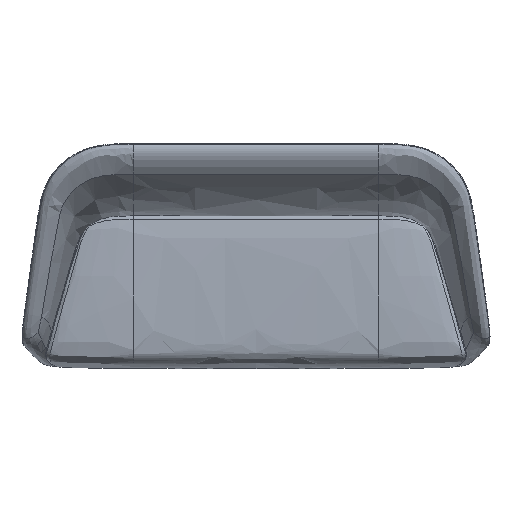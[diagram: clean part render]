
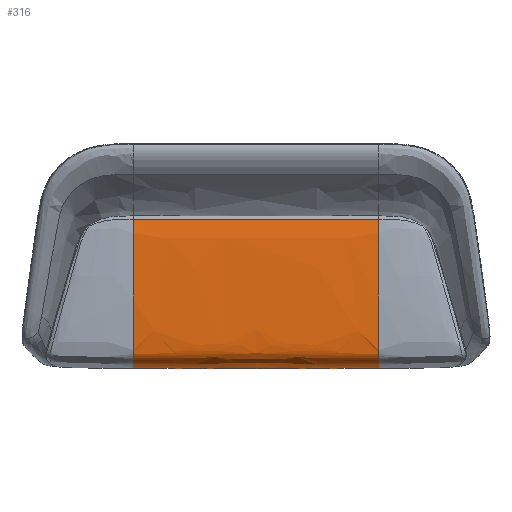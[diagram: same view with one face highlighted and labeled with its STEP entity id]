
A CAD part, top view. The second image highlights one B-rep face of the part: STEP entity #316.
In plain terms, the highlighted free-form (B-spline) face has degree [3, 1] with [18, 2] control points.
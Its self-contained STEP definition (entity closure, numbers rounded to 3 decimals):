
#15=B_SPLINE_SURFACE_WITH_KNOTS('',3,1,((#3946,#3947),(#3948,#3949),(#3950,
#3951),(#3952,#3953),(#3954,#3955),(#3956,#3957),(#3958,#3959),(#3960,#3961),
(#3962,#3963),(#3964,#3965),(#3966,#3967),(#3968,#3969),(#3970,#3971),(#3972,
#3973),(#3974,#3975),(#3976,#3977),(#3978,#3979),(#3980,#3981)),
 .UNSPECIFIED.,.F.,.F.,.F.,(4,2,2,1,1,1,1,1,1,1,1,1,1,4),(2,2),(0.,0.25,
0.5,1.,2.,3.,4.,5.,6.,7.,8.,9.,10.,11.),(0.,865.),
 .UNSPECIFIED.);
#316=ADVANCED_FACE('',(#429),#15,.T.);
#429=FACE_OUTER_BOUND('',#542,.T.);
#542=EDGE_LOOP('',(#841,#842,#843,#844));
#841=ORIENTED_EDGE('',*,*,#1227,.T.);
#842=ORIENTED_EDGE('',*,*,#1222,.T.);
#843=ORIENTED_EDGE('',*,*,#1228,.F.);
#844=ORIENTED_EDGE('',*,*,#1223,.T.);
#1222=EDGE_CURVE('',#1459,#1447,#1707,.T.);
#1223=EDGE_CURVE('',#1448,#1458,#1708,.T.);
#1227=EDGE_CURVE('',#1458,#1459,#1712,.T.);
#1228=EDGE_CURVE('',#1448,#1447,#1713,.T.);
#1447=VERTEX_POINT('',#4968);
#1448=VERTEX_POINT('',#4969);
#1458=VERTEX_POINT('',#4979);
#1459=VERTEX_POINT('',#4980);
#1707=B_SPLINE_CURVE_WITH_KNOTS('',1,(#5261,#5262),.UNSPECIFIED.,.F.,.F.,
(2,2),(0.,865.),.UNSPECIFIED.);
#1708=B_SPLINE_CURVE_WITH_KNOTS('',1,(#5263,#5264),.UNSPECIFIED.,.F.,.F.,
(2,2),(-865.,0.),.UNSPECIFIED.);
#1712=B_SPLINE_CURVE_WITH_KNOTS('',3,(#5285,#5286,#5287,#5288,#5289,#5290,
#5291,#5292,#5293,#5294,#5295,#5296,#5297,#5298,#5299,#5300,#5301,#5302,
#5303,#5304,#5305),.UNSPECIFIED.,.F.,.F.,(4,2,2,1,1,1,1,1,1,1,1,1,1,3,4),
(0.,0.25,0.5,1.,2.,3.,4.,5.,6.,7.,8.,9.,10.,10.204,11.),
 .UNSPECIFIED.);
#1713=B_SPLINE_CURVE_WITH_KNOTS('',3,(#5306,#5307,#5308,#5309,#5310,#5311,
#5312,#5313,#5314,#5315,#5316,#5317,#5318,#5319,#5320,#5321,#5322,#5323,
#5324,#5325,#5326),.UNSPECIFIED.,.F.,.F.,(4,2,2,1,1,1,1,1,1,1,1,1,1,3,4),
(0.,0.25,0.5,1.,2.,3.,4.,5.,6.,7.,8.,9.,10.,10.204,11.),
 .UNSPECIFIED.);
#3946=CARTESIAN_POINT('',(-432.5,209.829,397.851));
#3947=CARTESIAN_POINT('',(432.5,209.829,397.851));
#3948=CARTESIAN_POINT('',(-432.5,206.401,398.865));
#3949=CARTESIAN_POINT('',(432.5,206.401,398.865));
#3950=CARTESIAN_POINT('',(-432.5,202.077,399.82));
#3951=CARTESIAN_POINT('',(432.5,202.077,399.82));
#3952=CARTESIAN_POINT('',(-432.5,191.833,401.609));
#3953=CARTESIAN_POINT('',(432.5,191.833,401.609));
#3954=CARTESIAN_POINT('',(-432.5,185.915,402.442));
#3955=CARTESIAN_POINT('',(432.5,185.915,402.442));
#3956=CARTESIAN_POINT('',(-432.5,166.07,404.747));
#3957=CARTESIAN_POINT('',(432.5,166.07,404.747));
#3958=CARTESIAN_POINT('',(-432.5,118.019,408.585));
#3959=CARTESIAN_POINT('',(432.5,118.019,408.585));
#3960=CARTESIAN_POINT('',(-432.5,8.156,410.729));
#3961=CARTESIAN_POINT('',(432.5,8.156,410.729));
#3962=CARTESIAN_POINT('',(-432.5,-117.633,410.376));
#3963=CARTESIAN_POINT('',(432.5,-117.633,410.376));
#3964=CARTESIAN_POINT('',(-432.5,-234.487,407.788));
#3965=CARTESIAN_POINT('',(432.5,-234.487,407.788));
#3966=CARTESIAN_POINT('',(-432.5,-278.296,397.402));
#3967=CARTESIAN_POINT('',(432.5,-278.296,397.402));
#3968=CARTESIAN_POINT('',(-432.5,-299.674,365.849));
#3969=CARTESIAN_POINT('',(432.5,-299.674,365.849));
#3970=CARTESIAN_POINT('',(-432.5,-313.725,297.224));
#3971=CARTESIAN_POINT('',(432.5,-313.725,297.224));
#3972=CARTESIAN_POINT('',(-432.5,-316.561,232.135));
#3973=CARTESIAN_POINT('',(432.5,-316.561,232.135));
#3974=CARTESIAN_POINT('',(-432.5,-310.,200.));
#3975=CARTESIAN_POINT('',(432.5,-310.,200.));
#3976=CARTESIAN_POINT('',(-432.5,-301.38,200.));
#3977=CARTESIAN_POINT('',(432.5,-301.38,200.));
#3978=CARTESIAN_POINT('',(-432.5,-280.42,200.));
#3979=CARTESIAN_POINT('',(432.5,-280.42,200.));
#3980=CARTESIAN_POINT('',(-432.5,-269.94,200.));
#3981=CARTESIAN_POINT('',(432.5,-269.94,200.));
#4968=CARTESIAN_POINT('',(432.5,-269.94,200.));
#4969=CARTESIAN_POINT('',(432.5,209.829,397.851));
#4979=CARTESIAN_POINT('',(-432.5,209.829,397.851));
#4980=CARTESIAN_POINT('',(-432.5,-269.94,200.));
#5261=CARTESIAN_POINT('',(-432.5,-269.94,200.));
#5262=CARTESIAN_POINT('',(432.5,-269.94,200.));
#5263=CARTESIAN_POINT('',(432.5,209.829,397.851));
#5264=CARTESIAN_POINT('',(-432.5,209.829,397.851));
#5285=CARTESIAN_POINT('',(-432.5,209.829,397.851));
#5286=CARTESIAN_POINT('',(-432.5,206.401,398.865));
#5287=CARTESIAN_POINT('',(-432.5,202.077,399.82));
#5288=CARTESIAN_POINT('',(-432.5,191.833,401.609));
#5289=CARTESIAN_POINT('',(-432.5,185.915,402.442));
#5290=CARTESIAN_POINT('',(-432.5,166.07,404.747));
#5291=CARTESIAN_POINT('',(-432.5,118.019,408.585));
#5292=CARTESIAN_POINT('',(-432.5,8.156,410.729));
#5293=CARTESIAN_POINT('',(-432.5,-117.633,410.376));
#5294=CARTESIAN_POINT('',(-432.5,-234.487,407.788));
#5295=CARTESIAN_POINT('',(-432.5,-278.296,397.402));
#5296=CARTESIAN_POINT('',(-432.5,-299.674,365.849));
#5297=CARTESIAN_POINT('',(-432.5,-313.725,297.224));
#5298=CARTESIAN_POINT('',(-432.5,-316.561,232.135));
#5299=CARTESIAN_POINT('',(-432.5,-310.,200.));
#5300=CARTESIAN_POINT('',(-432.5,-303.668,200.));
#5301=CARTESIAN_POINT('',(-432.5,-294.696,200.));
#5302=CARTESIAN_POINT('',(-432.5,-293.051,200.));
#5303=CARTESIAN_POINT('',(-432.5,-286.627,200.));
#5304=CARTESIAN_POINT('',(-432.5,-278.283,200.));
#5305=CARTESIAN_POINT('',(-432.5,-269.94,200.));
#5306=CARTESIAN_POINT('',(432.5,209.829,397.851));
#5307=CARTESIAN_POINT('',(432.5,206.401,398.865));
#5308=CARTESIAN_POINT('',(432.5,202.077,399.82));
#5309=CARTESIAN_POINT('',(432.5,191.833,401.609));
#5310=CARTESIAN_POINT('',(432.5,185.915,402.442));
#5311=CARTESIAN_POINT('',(432.5,166.07,404.747));
#5312=CARTESIAN_POINT('',(432.5,118.019,408.585));
#5313=CARTESIAN_POINT('',(432.5,8.156,410.729));
#5314=CARTESIAN_POINT('',(432.5,-117.633,410.376));
#5315=CARTESIAN_POINT('',(432.5,-234.487,407.788));
#5316=CARTESIAN_POINT('',(432.5,-278.296,397.402));
#5317=CARTESIAN_POINT('',(432.5,-299.674,365.849));
#5318=CARTESIAN_POINT('',(432.5,-313.725,297.224));
#5319=CARTESIAN_POINT('',(432.5,-316.561,232.135));
#5320=CARTESIAN_POINT('',(432.5,-310.,200.));
#5321=CARTESIAN_POINT('',(432.5,-303.668,200.));
#5322=CARTESIAN_POINT('',(432.5,-294.696,200.));
#5323=CARTESIAN_POINT('',(432.5,-293.051,200.));
#5324=CARTESIAN_POINT('',(432.5,-286.627,200.));
#5325=CARTESIAN_POINT('',(432.5,-278.283,200.));
#5326=CARTESIAN_POINT('',(432.5,-269.94,200.));
